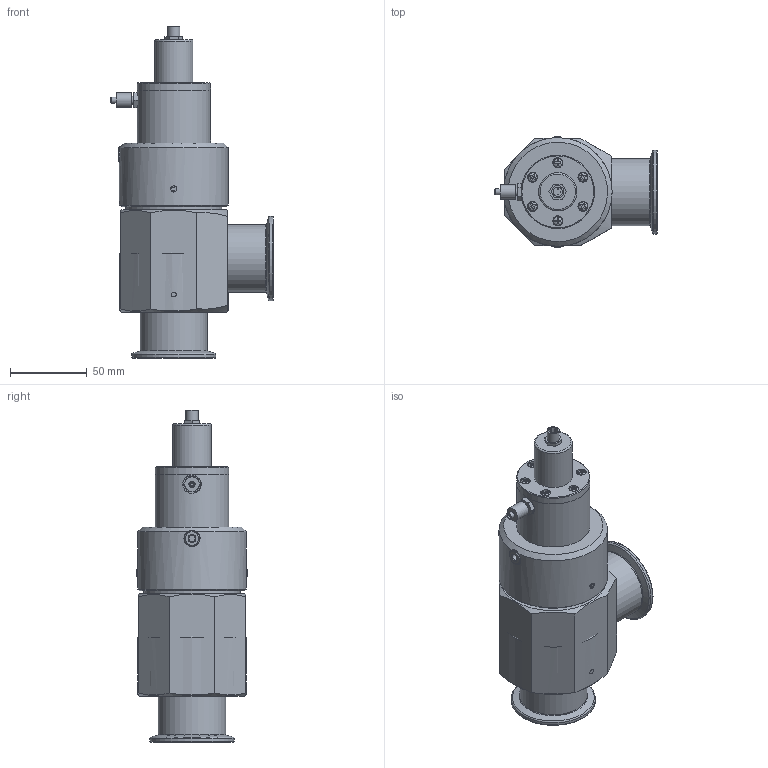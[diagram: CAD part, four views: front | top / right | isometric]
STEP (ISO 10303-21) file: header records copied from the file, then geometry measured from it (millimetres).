
FILE_DESCRIPTION( ( 'Unknown' ), '1' );
FILE_NAME( 'X:/Daten ( aktueller Bestand )/Projekte und Zeichnungen/Solid Edge/21 Eck + Durchgangsventile KF ISO-K, el.pneumatisch/Alu/Eckventil/NW40/Internet/310621.stp', 'Unknown', ( 'Unknown' ), ( 'Unknown' ), 'XStep 1.0', 'Unknown', ' ' );
FILE_SCHEMA( ( 'automotive_design' ) );
Length unit declared in the file: millimetre
Products named in the file (9): Assem1; Gehaese Eck.Alu.NW40; 3006-1; 3102-2; 3102-5; M4x4; Schraube 3x8; Anschluss Festo; 3102-6
Bounding box: 106.2 x 72 x 217 mm (x, y, z)
Volume: 1267659 mm3; surface area: 179123.3 mm2
Topology: 22 solids, 22 shells, 466 faces, 1021 edges, 673 vertices
Faces by surface type: plane 262, cylinder 129, cone 54, torus 14, sphere 7
Full cylindrical faces by diameter (mm): 0.5 x6, 2 x2, 2.459 x12, 2.8 x2, 3 x7, 3.242 x4, 3.3 x12, 4 x5, 4.134 x4, 5 x4, 5.793 x7, 6 x4, 6.5 x12, 7.459 x2, 8 x2, 9.518 x2, 10 x2, 10.5 x2, 12 x2, 16.913 x2, 19 x2, 20 x2, 25 x2, 26 x2, 33.739 x2, 37.97 x2, 41.2 x4, 44 x4, 48 x4, 52.563 x2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
Entity records: 5194 total; most frequent: CARTESIAN_POINT 1335, DIRECTION 766, ORIENTED_EDGE 512, AXIS2_PLACEMENT_3D 340, EDGE_LOOP 329, EDGE_CURVE 256, FACE_OUTER_BOUND 247, VERTEX_POINT 223
